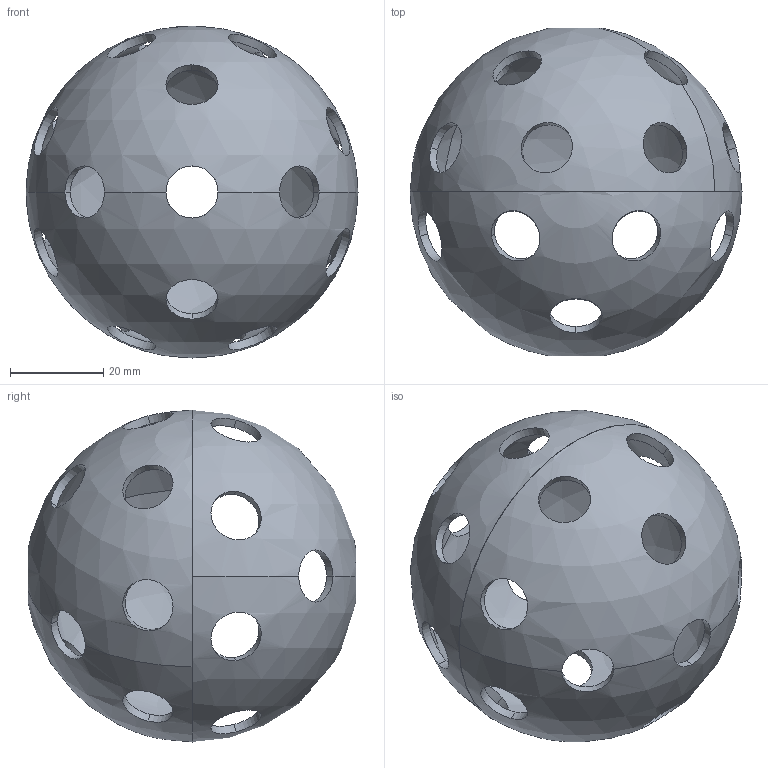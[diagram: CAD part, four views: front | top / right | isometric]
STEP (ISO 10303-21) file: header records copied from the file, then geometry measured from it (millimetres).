
FILE_DESCRIPTION (( 'STEP AP214' ), '1' );
FILE_NAME ('am-5851_yellow Neutral Pollen.STEP', '2026-09-11T19:40:20', ( '' ), ( '' ), 'SwSTEP 2.0', 'SolidWorks 2024', '' );
FILE_SCHEMA (( 'AUTOMOTIVE_DESIGN' ));
Length unit declared in the file: inch
Products named in the file (1): am-5851_yellow Neutral Pollen
Bounding box: 71.12 x 70.24 x 71.12 mm (x, y, z)
Volume: 22299.2 mm3; surface area: 27515.9 mm2
Topology: 2 solids, 2 shells, 62 faces, 204 edges, 128 vertices
Faces by surface type: cylinder 52, sphere 8, plane 2
Entity records: 2322 total; most frequent: DIRECTION 450, ORIENTED_EDGE 376, CARTESIAN_POINT 371, AXIS2_PLACEMENT_3D 199, EDGE_CURVE 188, CIRCLE 136, VERTEX_POINT 120, EDGE_LOOP 104
